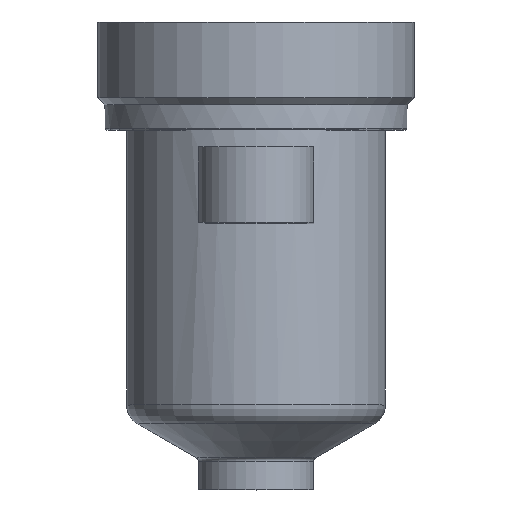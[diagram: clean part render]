
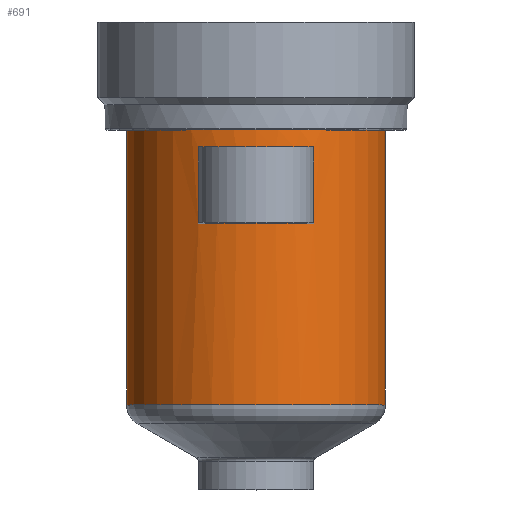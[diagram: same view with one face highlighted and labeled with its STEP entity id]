
A CAD part, top view. The second image highlights one B-rep face of the part: STEP entity #691.
In plain terms, the highlighted cylindrical face has radius 18 mm (diameter 36 mm), a partial arc.
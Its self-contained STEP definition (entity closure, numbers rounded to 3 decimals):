
#187=DIRECTION('',(0.,-1.,0.));
#188=VECTOR('',#187,38.206);
#189=CARTESIAN_POINT('',(18.,0.,0.));
#190=LINE('',#189,#188);
#191=CARTESIAN_POINT('',(0.,-38.206,0.));
#192=DIRECTION('',(0.,1.,0.));
#193=DIRECTION('',(-1.,0.,0.));
#194=AXIS2_PLACEMENT_3D('',#191,#192,#193);
#196=DIRECTION('',(0.,1.,0.));
#197=VECTOR('',#196,38.206);
#198=CARTESIAN_POINT('',(-18.,-38.206,0.));
#199=LINE('',#198,#197);
#200=CARTESIAN_POINT('',(0.,0.,0.));
#201=DIRECTION('',(0.,1.,0.));
#202=DIRECTION('',(-1.,0.,0.));
#203=AXIS2_PLACEMENT_3D('',#200,#201,#202);
#281=DIRECTION('',(0.,-1.,0.));
#282=VECTOR('',#281,10.5);
#283=CARTESIAN_POINT('',(-8.,-2.5,16.125));
#284=LINE('',#283,#282);
#285=CARTESIAN_POINT('',(0.,-13.,0.));
#286=DIRECTION('',(0.,1.,0.));
#287=DIRECTION('',(-0.444,0.,0.896));
#288=AXIS2_PLACEMENT_3D('',#285,#286,#287);
#311=CARTESIAN_POINT('',(0.,-2.5,0.));
#312=DIRECTION('',(0.,-1.,0.));
#313=DIRECTION('',(0.444,0.,0.896));
#314=AXIS2_PLACEMENT_3D('',#311,#312,#313);
#329=DIRECTION('',(0.,-1.,0.));
#330=VECTOR('',#329,10.5);
#331=CARTESIAN_POINT('',(8.,-2.5,16.125));
#332=LINE('',#331,#330);
#390=CARTESIAN_POINT('',(-18.,0.,0.));
#391=CARTESIAN_POINT('',(18.,0.,0.));
#392=VERTEX_POINT('',#390);
#393=VERTEX_POINT('',#391);
#402=CARTESIAN_POINT('',(-8.,-2.5,16.125));
#403=VERTEX_POINT('',#402);
#404=CARTESIAN_POINT('',(8.,-2.5,16.125));
#405=VERTEX_POINT('',#404);
#438=CARTESIAN_POINT('',(18.,-38.206,0.));
#439=VERTEX_POINT('',#438);
#448=CARTESIAN_POINT('',(-18.,-38.206,0.));
#449=VERTEX_POINT('',#448);
#450=CARTESIAN_POINT('',(-8.,-13.,16.125));
#451=CARTESIAN_POINT('',(8.,-13.,16.125));
#452=VERTEX_POINT('',#450);
#453=VERTEX_POINT('',#451);
#669=CARTESIAN_POINT('',(0.,16.4,0.));
#670=DIRECTION('',(0.,-1.,0.));
#671=DIRECTION('',(-1.,0.,0.));
#672=AXIS2_PLACEMENT_3D('',#669,#670,#671);
#673=CYLINDRICAL_SURFACE('',#672,18.);
#674=ORIENTED_EDGE('',*,*,#663,.T.);
#676=ORIENTED_EDGE('',*,*,#675,.F.);
#677=ORIENTED_EDGE('',*,*,#659,.T.);
#678=ORIENTED_EDGE('',*,*,#649,.T.);
#679=EDGE_LOOP('',(#674,#676,#677,#678));
#680=FACE_OUTER_BOUND('',#679,.F.);
#682=ORIENTED_EDGE('',*,*,#681,.T.);
#684=ORIENTED_EDGE('',*,*,#683,.T.);
#686=ORIENTED_EDGE('',*,*,#685,.F.);
#688=ORIENTED_EDGE('',*,*,#687,.T.);
#689=EDGE_LOOP('',(#682,#684,#686,#688));
#690=FACE_BOUND('',#689,.F.);
#691=ADVANCED_FACE('',(#680,#690),#673,.T.);
#195=CIRCLE('',#194,18.);
#204=CIRCLE('',#203,18.);
#289=CIRCLE('',#288,18.);
#315=CIRCLE('',#314,18.);
#649=EDGE_CURVE('',#392,#393,#204,.T.);
#659=EDGE_CURVE('',#449,#392,#199,.T.);
#663=EDGE_CURVE('',#393,#439,#190,.T.);
#675=EDGE_CURVE('',#449,#439,#195,.T.);
#681=EDGE_CURVE('',#403,#452,#284,.T.);
#683=EDGE_CURVE('',#452,#453,#289,.T.);
#685=EDGE_CURVE('',#405,#453,#332,.T.);
#687=EDGE_CURVE('',#405,#403,#315,.T.);
